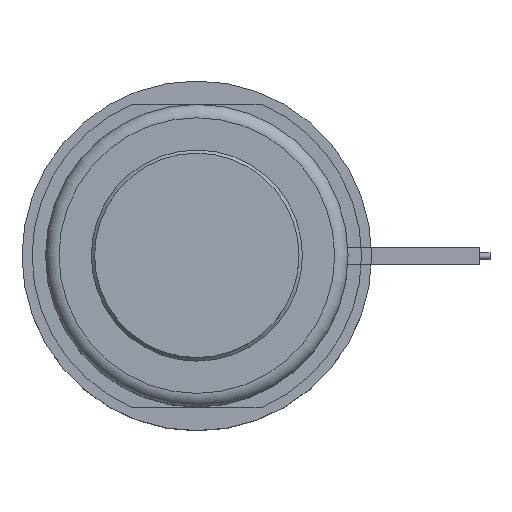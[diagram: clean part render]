
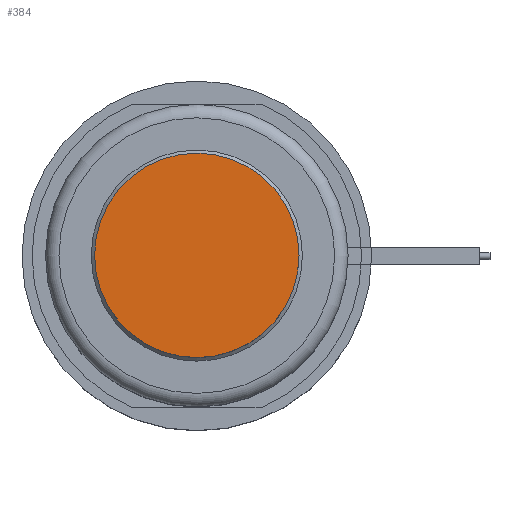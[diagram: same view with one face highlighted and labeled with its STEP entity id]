
A CAD part, top view. The second image highlights one B-rep face of the part: STEP entity #384.
In plain terms, the highlighted planar face has unit normal (0, 0, 1).
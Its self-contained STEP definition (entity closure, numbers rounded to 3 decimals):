
#246=PLANE('',#1413);
#292=FACE_OUTER_BOUND('',#617,.T.);
#384=ADVANCED_FACE('',(#292),#246,.F.);
#617=EDGE_LOOP('',(#771));
#771=ORIENTED_EDGE('',*,*,#1162,.F.);
#1045=VERTEX_POINT('',#2053);
#1162=EDGE_CURVE('',#1045,#1045,#1308,.T.);
#1308=CIRCLE('',#1412,15.2);
#1412=AXIS2_PLACEMENT_3D('',#2052,#1636,#1637);
#1413=AXIS2_PLACEMENT_3D('',#2054,#1638,#1639);
#1636=DIRECTION('',(0.,0.,-1.));
#1637=DIRECTION('',(-1.,0.,0.));
#1638=DIRECTION('',(0.,0.,-1.));
#1639=DIRECTION('',(-1.,0.,0.));
#2052=CARTESIAN_POINT('',(0.,0.,18.));
#2053=CARTESIAN_POINT('',(-15.2,0.,18.));
#2054=CARTESIAN_POINT('',(0.,0.,18.));
